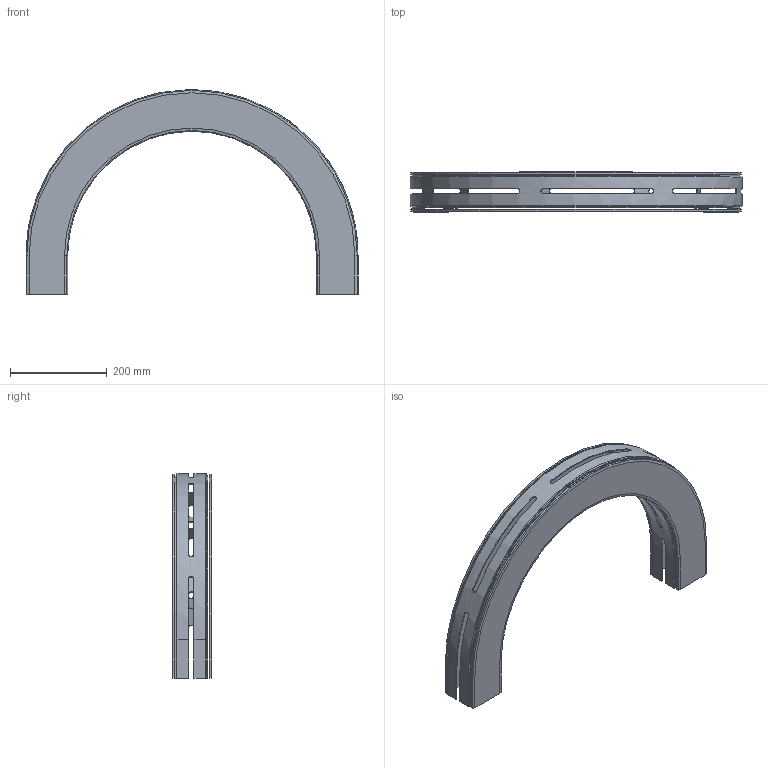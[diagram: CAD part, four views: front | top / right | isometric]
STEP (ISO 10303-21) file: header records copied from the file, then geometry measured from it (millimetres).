
FILE_DESCRIPTION(/* description */ ('GLIDKURVA SERIE 530'),/* implementation_level */ '2;1');
FILE_NAME(/* name */ '530-5375+830-2000-01.stp',/* time_stamp */ '2022-09-20T14:52:18+02:00',/* author */ ('Mathias.Dore'),/* organization */ ('CARRYLINE'),/* preprocessor_version */ 'ST-DEVELOPER v19.2',/* originating_system */ 'Autodesk Inventor 2023',/* authorisation */ '');
FILE_SCHEMA (('AUTOMOTIVE_DESIGN { 1 0 10303 214 3 1 1 }'));
Length unit declared in the file: millimetre
Products named in the file (1): 530-5375+830-2000-01
Bounding box: 686 x 82 x 423 mm (x, y, z)
Volume: 1595640.9 mm3; surface area: 762217.3 mm2
Topology: 2 solids, 2 shells, 191 faces, 530 edges, 348 vertices
Faces by surface type: plane 125, bspline 30, cylinder 28, torus 4, cone 4
Entity records: 7073 total; most frequent: CARTESIAN_POINT 2168, ORIENTED_EDGE 1060, DIRECTION 898, EDGE_CURVE 530, LINE 366, VECTOR 366, VERTEX_POINT 348, AXIS2_PLACEMENT_3D 266
